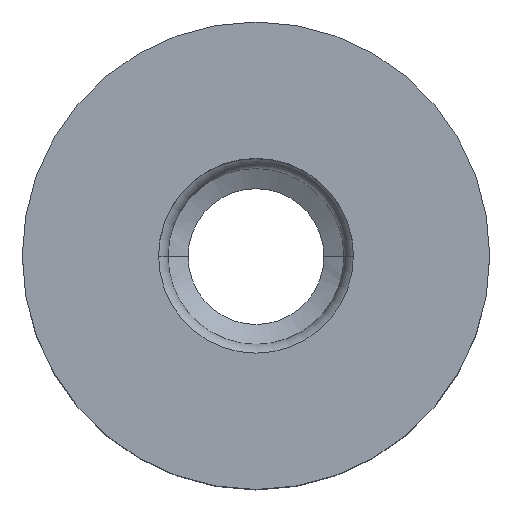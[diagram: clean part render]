
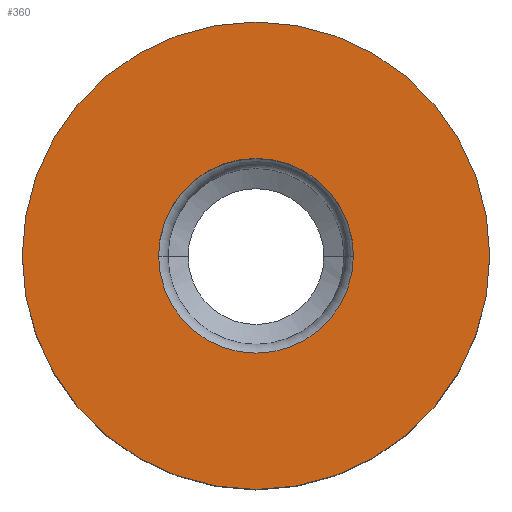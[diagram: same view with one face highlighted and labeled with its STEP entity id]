
A CAD part, top view. The second image highlights one B-rep face of the part: STEP entity #360.
In plain terms, the highlighted planar face has unit normal (0, 0, 1).
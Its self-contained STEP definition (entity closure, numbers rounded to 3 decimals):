
#37 = CIRCLE ( 'NONE', #477, 6. ) ;
#43 = CARTESIAN_POINT ( 'NONE',  ( 0., 0., 0. ) ) ;
#44 = EDGE_CURVE ( 'NONE', #781, #445, #619, .T. ) ;
#69 = FACE_BOUND ( 'NONE', #657, .T. ) ;
#147 = CARTESIAN_POINT ( 'NONE',  ( 0., 0., 0. ) ) ;
#150 = AXIS2_PLACEMENT_3D ( 'NONE', #43, #534, #463 ) ;
#181 = DIRECTION ( 'NONE',  ( 0., 0., 1. ) ) ;
#188 = DIRECTION ( 'NONE',  ( 0., 0., 1. ) ) ;
#221 = DIRECTION ( 'NONE',  ( 1., 0., 0. ) ) ;
#276 = CARTESIAN_POINT ( 'NONE',  ( 0., 0., 0. ) ) ;
#306 = DIRECTION ( 'NONE',  ( 1., 0., 0. ) ) ;
#325 = DIRECTION ( 'NONE',  ( 0., 0., 1. ) ) ;
#350 = DIRECTION ( 'NONE',  ( 0., 0., 1. ) ) ;
#360 = ADVANCED_FACE ( 'NONE', ( #389, #69 ), #482, .F. ) ;
#363 = DIRECTION ( 'NONE',  ( 1., 0., 0. ) ) ;
#389 = FACE_OUTER_BOUND ( 'NONE', #912, .T. ) ;
#421 = CIRCLE ( 'NONE', #747, 2.5 ) ;
#434 = EDGE_CURVE ( 'NONE', #445, #781, #37, .T. ) ;
#445 = VERTEX_POINT ( 'NONE', #475 ) ;
#463 = DIRECTION ( 'NONE',  ( -1., 0., 0. ) ) ;
#475 = CARTESIAN_POINT ( 'NONE',  ( -6., 0., 0. ) ) ;
#477 = AXIS2_PLACEMENT_3D ( 'NONE', #276, #181, #306 ) ;
#481 = CARTESIAN_POINT ( 'NONE',  ( -2.5, 0., 0. ) ) ;
#482 = PLANE ( 'NONE',  #150 ) ;
#490 = AXIS2_PLACEMENT_3D ( 'NONE', #851, #350, #221 ) ;
#492 = DIRECTION ( 'NONE',  ( 1., 0., 0. ) ) ;
#515 = EDGE_CURVE ( 'NONE', #936, #823, #421, .T. ) ;
#534 = DIRECTION ( 'NONE',  ( 0., 0., -1. ) ) ;
#598 = ORIENTED_EDGE ( 'NONE', *, *, #915, .F. ) ;
#619 = CIRCLE ( 'NONE', #707, 6. ) ;
#657 = EDGE_LOOP ( 'NONE', ( #598, #769 ) ) ;
#683 = ORIENTED_EDGE ( 'NONE', *, *, #44, .T. ) ;
#685 = CIRCLE ( 'NONE', #490, 2.5 ) ;
#688 = CARTESIAN_POINT ( 'NONE',  ( 0., 0., 0. ) ) ;
#707 = AXIS2_PLACEMENT_3D ( 'NONE', #688, #325, #363 ) ;
#747 = AXIS2_PLACEMENT_3D ( 'NONE', #147, #188, #492 ) ;
#769 = ORIENTED_EDGE ( 'NONE', *, *, #515, .F. ) ;
#779 = CARTESIAN_POINT ( 'NONE',  ( 2.5, 0., 0. ) ) ;
#781 = VERTEX_POINT ( 'NONE', #807 ) ;
#807 = CARTESIAN_POINT ( 'NONE',  ( 6., 0., 0. ) ) ;
#823 = VERTEX_POINT ( 'NONE', #779 ) ;
#851 = CARTESIAN_POINT ( 'NONE',  ( 0., 0., 0. ) ) ;
#869 = ORIENTED_EDGE ( 'NONE', *, *, #434, .T. ) ;
#912 = EDGE_LOOP ( 'NONE', ( #683, #869 ) ) ;
#915 = EDGE_CURVE ( 'NONE', #823, #936, #685, .T. ) ;
#936 = VERTEX_POINT ( 'NONE', #481 ) ;
